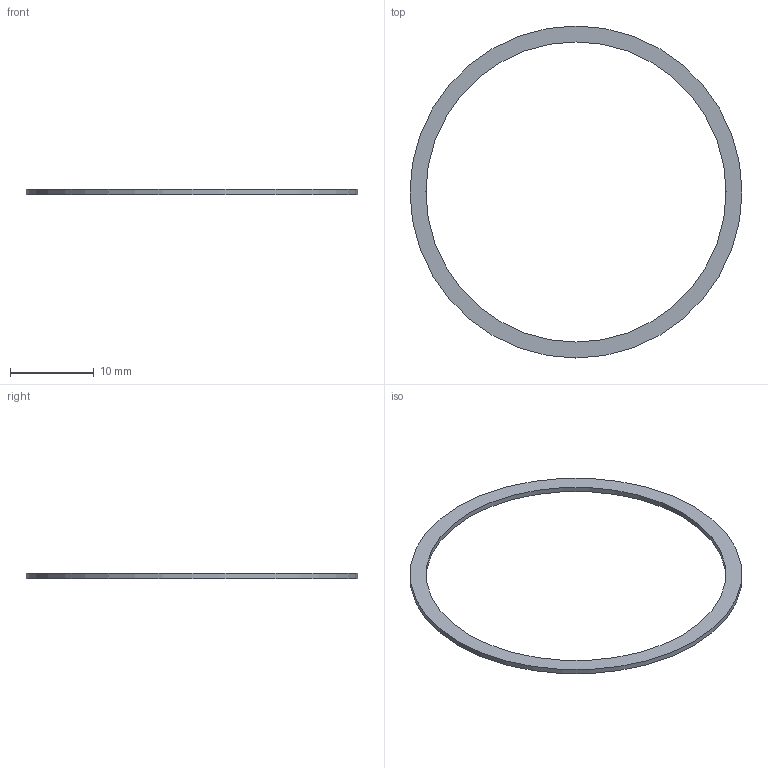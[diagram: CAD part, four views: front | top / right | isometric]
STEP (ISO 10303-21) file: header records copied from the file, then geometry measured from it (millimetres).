
FILE_DESCRIPTION(('Open CASCADE Model'),'2;1');
FILE_NAME('C27_R2_Speaker_Front_Gasket_FREE_STATE','2026-09-09T17:52:57' ,('Author'),('Open CASCADE'),'Open CASCADE STEP processor 7.9', 'build123d','Unknown');
FILE_SCHEMA(('AUTOMOTIVE_DESIGN { 1 0 10303 214 1 1 1 1 }'));
Length unit declared in the file: millimetre
Products named in the file (1): C27_R2_Speaker_Front_Gasket_FREE_STATE
Bounding box: 39.6 x 39.6 x 0.6 mm (x, y, z)
Volume: 135 mm3; surface area: 592.2 mm2
Topology: 1 solids, 1 shells, 4 faces, 6 edges, 4 vertices
Faces by surface type: cylinder 2, plane 2
Full cylindrical faces by diameter (mm): 35.8 x1, 39.6 x1
Entity records: 197 total; most frequent: DIRECTION 32, CARTESIAN_POINT 27, ORIENTED_EDGE 12, PCURVE 12, DEFINITIONAL_REPRESENTATION 12, LINE 10, VECTOR 10, AXIS2_PLACEMENT_3D 9
